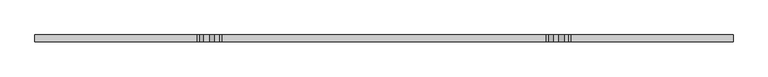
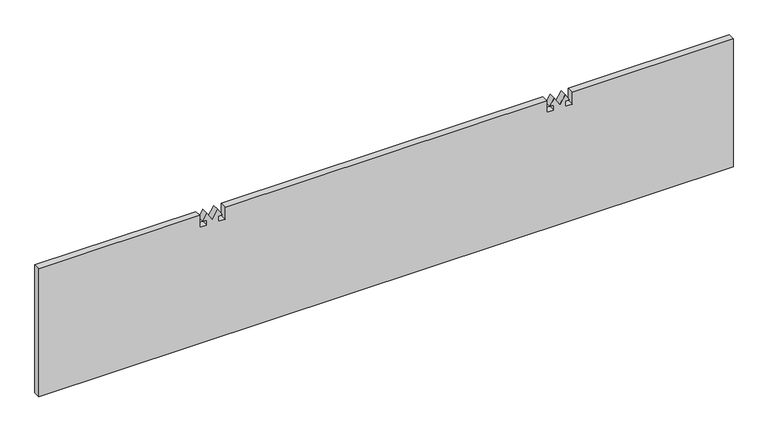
"""IFC4 building model written with IfcOpenShell, lengths in millimetres: proxy geometry, instalación_stratus 8.3dm."""

from ifc_helpers import new_model, si_unit, frame, origin, place, context, project, spatial, polyline, outline, extrude, source, transform, mapped, element, save


def generic_models_79872261(model_context):
    return source(origin(), model_context, "Body", "SweptSolid", [
        extrude(outline(polyline([(-42.5638653, 291.811158), (-42.5638653, 279.553481), (-20.65, 279.553481), (-20.65, 0.0), (-255.6, 0.0), (-255.6, 1206.5), (-20.65, 1206.5), (-20.65, 926.946519), (-42.5638653, 926.946519), (-42.5638653, 914.688842), (-33.2622966, 914.688842), (-33.2622966, 922.0592541), (-20.65, 914.42236), (-36.4174225, 904.875), (-20.65, 895.32764), (-33.2622966, 887.6907459), (-33.2622966, 895.061158), (-42.5638653, 895.061158), (-42.5638653, 882.803481), (-20.65, 882.803481), (-20.65, 323.696519), (-42.5638653, 323.696519), (-42.5638653, 311.438842), (-33.2622966, 311.438842), (-33.2622966, 318.8092541), (-20.65, 311.17236), (-36.4174225, 301.625), (-20.65, 292.07764), (-33.2622966, 284.4407459), (-33.2622966, 291.811158), (-42.5638653, 291.811158)])), frame((0.0, 929.0710804, 0.0), z_axis=(0.0, 1.0, 0.0), x_axis=(0.0, 0.0, 1.0)), (0.0, 0.0, 1.0), 12.0),
    ])


if __name__ == "__main__":
    model = new_model("IFC4")
    model_context = context("Model", 3, world=origin())
    ifc_project = project(units=[si_unit("LENGTHUNIT", "METRE", prefix="MILLI")], contexts=[model_context])
    site = spatial("IfcSite", under=ifc_project)
    building = spatial("IfcBuilding", under=site)
    placement = place(None, origin())
    generic_models_shape = generic_models_79872261(model_context)
    element("IfcBuildingElementProxy", 1, Name="instalación_stratus 8.3dm", ObjectType="instalación_stratus 8.3dm", at=placement, inside=building, context=model_context, shape_type="MappedRepresentation", body=[
        mapped(generic_models_shape, transform((0.0, 0.0, 0.0), x_axis=(1.0, 0.0, 0.0), y_axis=(0.0, 1.0, 0.0), z_axis=(0.0, 0.0, 1.0))),
    ])
    save(model, "model.ifc")
